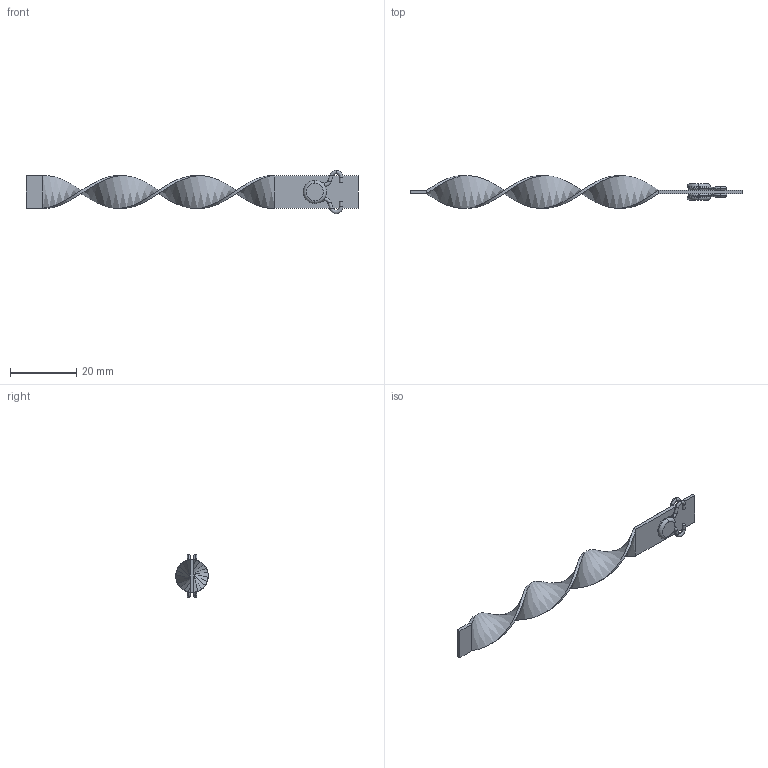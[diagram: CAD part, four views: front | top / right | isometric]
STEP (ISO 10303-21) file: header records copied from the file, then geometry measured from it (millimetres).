
FILE_DESCRIPTION (( 'STEP AP203' ), '1' );
FILE_NAME ('RLAS-10x100.STEP', '2015-12-10T16:28:34', ( 'Balzi' ), ( '' ), 'SwSTEP 2.0', 'SolidWorks 2015', '' );
FILE_SCHEMA (( 'CONFIG_CONTROL_DESIGN' ));
Length unit declared in the file: millimetre
Products named in the file (1): RLAS-10x100
Bounding box: 100 x 9.85 x 12.99 mm (x, y, z)
Volume: 1089.7 mm3; surface area: 2652.6 mm2
Topology: 5 solids, 5 shells, 92 faces, 178 edges, 96 vertices
Faces by surface type: torus 40, cylinder 30, plane 18, bspline 4
Entity records: 3307 total; most frequent: CARTESIAN_POINT 1319, DIRECTION 468, ORIENTED_EDGE 356, AXIS2_PLACEMENT_3D 209, EDGE_CURVE 178, CIRCLE 120, VERTEX_POINT 96, EDGE_LOOP 94
